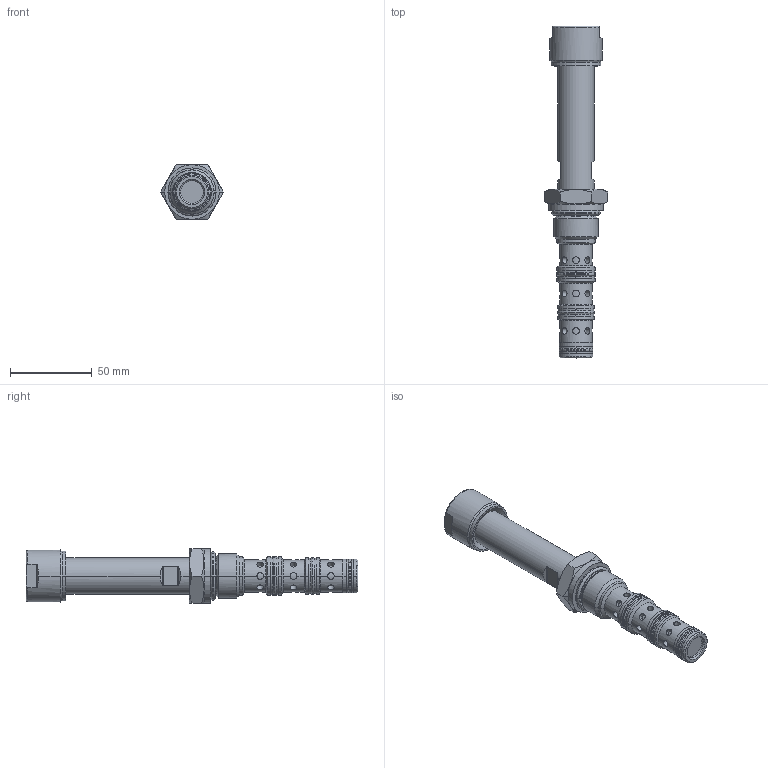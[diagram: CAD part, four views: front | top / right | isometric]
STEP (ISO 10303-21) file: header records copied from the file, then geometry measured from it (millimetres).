
FILE_DESCRIPTION((''),'2;1');
FILE_NAME('ESDV-12-4B-0--','2024-10-24T09:21:42',('salzmanm'),(''),'CREO PARAMETRIC BY PTC INC, 2022281','CREO PARAMETRIC BY PTC INC, 2022281','');
FILE_SCHEMA(('CONFIG_CONTROL_DESIGN'));
Length unit declared in the file: millimetre
Products named in the file (1): ESDV-12-4B-0--
Bounding box: 38.48 x 202.67 x 33.32 mm (x, y, z)
Volume: 92511.5 mm3; surface area: 24538 mm2
Topology: 1 solids, 1 shells, 307 faces, 697 edges, 427 vertices
Faces by surface type: cylinder 159, plane 64, torus 52, cone 32
Entity records: 26129 total; most frequent: CARTESIAN_POINT 19317, DIRECTION 1419, ORIENTED_EDGE 1394, EDGE_CURVE 697, AXIS2_PLACEMENT_3D 597, VERTEX_POINT 427, EDGE_LOOP 348, FACE_OUTER_BOUND 307
